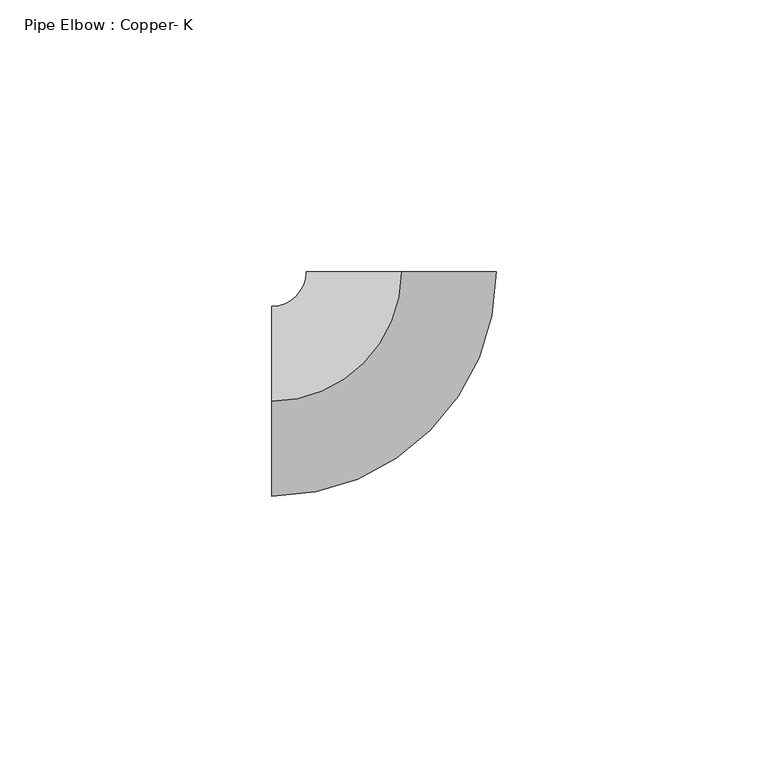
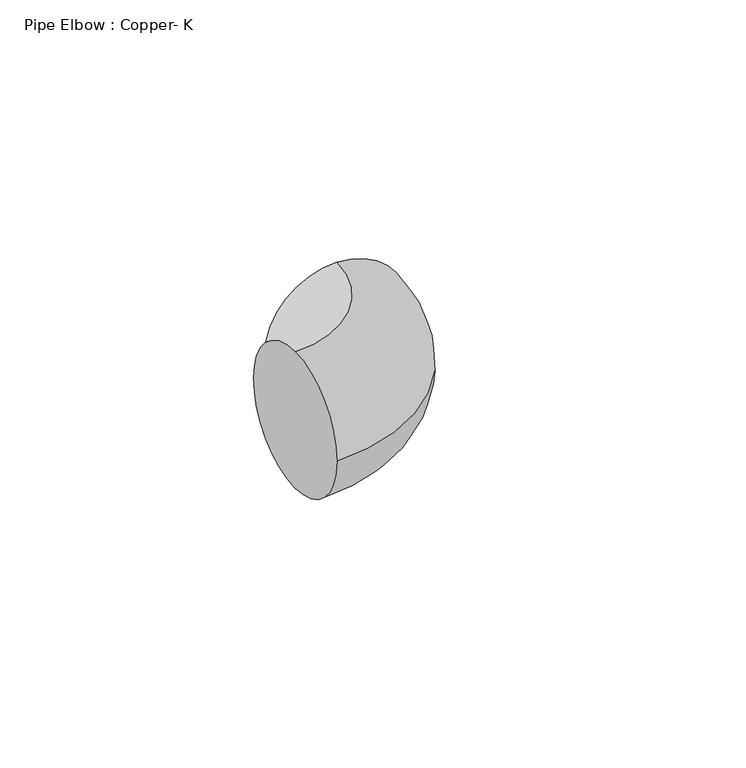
"""IFC4 building model written with IfcOpenShell, lengths in millimetres: pipe fitting geometry, Pipe Elbow : Copper- K."""

from ifc_helpers import new_model, si_unit, point, frame, origin, place, context, project, spatial, circle_curve, ellipse_curve, trimmed, source, transform, mapped, element, save
from ifc_brep_helpers import plane_surface, revolved_surface, advanced_brep


def pipe_elbow_copper_k_c5202fef(model_context):
    return source(origin(), model_context, "Body", "AdvancedBrep", [
        advanced_brep(
        [(-23.8129868, 0.0, 17.4625), (-23.8129868, 17.4625, 0.0), (-23.8129868, 0.0, -17.4625), (-23.8129868, -17.4625, 0.0), (-0.0004868, 23.8129868, 17.4625), (17.4620132, 23.8133437, 0.0), (-0.0004868, 23.8129868, -17.4625), (-17.4629868, 23.8126298, 0.0)],
        [
            (0, 1, circle_curve(frame((-23.8129868, 0.0, 0.0), z_axis=(-1.0, 0.0, 0.0), x_axis=(0.0, 1.0, 0.0)), 17.4625)),
            (1, 2, circle_curve(frame((-23.8129868, 0.0, 0.0), z_axis=(-1.0, 0.0, 0.0), x_axis=(0.0, 1.0, 0.0)), 17.4625)),
            (2, 3, circle_curve(frame((-23.8129868, 0.0, 0.0), z_axis=(-1.0, 0.0, 0.0), x_axis=(0.0, 1.0, 0.0)), 17.4625)),
            (3, 0, circle_curve(frame((-23.8129868, 0.0, 0.0), z_axis=(-1.0, 0.0, 0.0), x_axis=(0.0, 1.0, 0.0)), 17.4625)),
            (4, 5, circle_curve(frame((-0.0004868, 23.8129868, 0.0), z_axis=(-2.044097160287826e-05, 0.9999999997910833, 0.0), x_axis=(-0.9999999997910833, -2.044097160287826e-05, 0.0)), 17.4625)),
            (5, 6, circle_curve(frame((-0.0004868, 23.8129868, 0.0), z_axis=(-2.044097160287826e-05, 0.9999999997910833, 0.0), x_axis=(-0.9999999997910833, -2.044097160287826e-05, 0.0)), 17.4625)),
            (6, 7, circle_curve(frame((-0.0004868, 23.8129868, 0.0), z_axis=(-2.044097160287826e-05, 0.9999999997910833, 0.0), x_axis=(-0.9999999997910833, -2.044097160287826e-05, 0.0)), 17.4625)),
            (7, 4, circle_curve(frame((-0.0004868, 23.8129868, 0.0), z_axis=(-2.044097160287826e-05, 0.9999999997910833, 0.0), x_axis=(-0.9999999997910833, -2.044097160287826e-05, 0.0)), 17.4625)),
            (7, 1, circle_curve(frame((-23.8129868, 23.8125, 0.0), z_axis=(0.0, 0.0, -1.0), x_axis=(0.0, -1.0, 0.0)), 6.35)),
            (0, 4, circle_curve(frame((-23.8129868, 23.8125, 17.4625), z_axis=(0.0, 0.0, 1.0), x_axis=(0.0, -1.0, 0.0)), 23.8125)),
            (6, 2, circle_curve(frame((-23.8129868, 23.8125, -17.4625), z_axis=(0.0, 0.0, -1.0), x_axis=(0.0, -1.0, 0.0)), 23.8125)),
            (5, 3, circle_curve(frame((-23.8129868, 23.8125, 0.0), z_axis=(0.0, 0.0, -1.0), x_axis=(0.0, -1.0, 0.0)), 41.275)),
        ],
        [
            plane_surface(frame((-23.8129868, 0.0, 0.0), z_axis=(-1.0, 0.0, 0.0), x_axis=(0.0, 0.0, 1.0))),
            plane_surface(frame((-0.0004868, 23.8129868, 0.0), z_axis=(-2.0440971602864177e-05, 0.9999999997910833, 0.0), x_axis=(0.0, 0.0, 1.0))),
            revolved_surface(trimmed(ellipse_curve(frame((-23.8129868, 0.0, 0.0), z_axis=(-1.0, 0.0, 0.0), x_axis=(0.0, 1.0, 0.0)), 17.4625, 17.4625), [point((-23.8129868, 0.0, 17.4625))], [point((-23.8129868, 17.4625, 0.0))], True, "CARTESIAN"), (-23.8129868, 23.8125, 0.0), (0.0, 0.0, 1.0)),
            revolved_surface(trimmed(ellipse_curve(frame((-23.8129868, 0.0, 0.0), z_axis=(-1.0, 0.0, 0.0), x_axis=(0.0, 1.0, 0.0)), 17.4625, 17.4625), [point((-23.8129868, 17.4625, 0.0))], [point((-23.8129868, 0.0, -17.4625))], True, "CARTESIAN"), (-23.8129868, 23.8125, 0.0), (0.0, 0.0, 1.0)),
            revolved_surface(trimmed(ellipse_curve(frame((-23.8129868, 0.0, 0.0), z_axis=(-1.0, 0.0, 0.0), x_axis=(0.0, 1.0, 0.0)), 17.4625, 17.4625), [point((-23.8129868, 0.0, -17.4625))], [point((-23.8129868, -17.4625, 0.0))], True, "CARTESIAN"), (-23.8129868, 23.8125, 0.0), (0.0, 0.0, 1.0)),
            revolved_surface(trimmed(ellipse_curve(frame((-23.8129868, 0.0, 0.0), z_axis=(-1.0, 0.0, 0.0), x_axis=(0.0, 1.0, 0.0)), 17.4625, 17.4625), [point((-23.8129868, -17.4625, 0.0))], [point((-23.8129868, 0.0, 17.4625))], True, "CARTESIAN"), (-23.8129868, 23.8125, 0.0), (0.0, 0.0, 1.0)),
        ],
        [
            (0, [[1, 2, 3, 4]]),
            (1, [[5, 6, 7, 8]]),
            (2, [[9, -1, 10, -8]]),
            (3, [[11, -2, -9, -7]]),
            (4, [[12, -3, -11, -6]]),
            (5, [[-10, -4, -12, -5]]),
        ],
    ),
        advanced_brep(
        [(-23.8129868, 0.0, 17.4625), (-23.8129868, 17.4625, 0.0), (-23.8129868, 0.0, -17.4625), (-23.8129868, -17.4625, 0.0), (-0.0004868, 23.8129868, 17.4625), (17.4620132, 23.8133437, 0.0), (-0.0004868, 23.8129868, -17.4625), (-17.4629868, 23.8126298, 0.0)],
        [
            (0, 1, circle_curve(frame((-23.8129868, 0.0, 0.0), z_axis=(-1.0, 0.0, 0.0), x_axis=(0.0, 1.0, 0.0)), 17.4625)),
            (1, 2, circle_curve(frame((-23.8129868, 0.0, 0.0), z_axis=(-1.0, 0.0, 0.0), x_axis=(0.0, 1.0, 0.0)), 17.4625)),
            (2, 3, circle_curve(frame((-23.8129868, 0.0, 0.0), z_axis=(-1.0, 0.0, 0.0), x_axis=(0.0, 1.0, 0.0)), 17.4625)),
            (3, 0, circle_curve(frame((-23.8129868, 0.0, 0.0), z_axis=(-1.0, 0.0, 0.0), x_axis=(0.0, 1.0, 0.0)), 17.4625)),
            (4, 5, circle_curve(frame((-0.0004868, 23.8129868, 0.0), z_axis=(-2.044097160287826e-05, 0.9999999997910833, 0.0), x_axis=(-0.9999999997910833, -2.044097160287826e-05, 0.0)), 17.4625)),
            (5, 6, circle_curve(frame((-0.0004868, 23.8129868, 0.0), z_axis=(-2.044097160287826e-05, 0.9999999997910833, 0.0), x_axis=(-0.9999999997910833, -2.044097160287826e-05, 0.0)), 17.4625)),
            (6, 7, circle_curve(frame((-0.0004868, 23.8129868, 0.0), z_axis=(-2.044097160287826e-05, 0.9999999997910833, 0.0), x_axis=(-0.9999999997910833, -2.044097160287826e-05, 0.0)), 17.4625)),
            (7, 4, circle_curve(frame((-0.0004868, 23.8129868, 0.0), z_axis=(-2.044097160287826e-05, 0.9999999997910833, 0.0), x_axis=(-0.9999999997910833, -2.044097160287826e-05, 0.0)), 17.4625)),
            (7, 1, circle_curve(frame((-23.8129868, 23.8125, 0.0), z_axis=(0.0, 0.0, -1.0), x_axis=(0.0, -1.0, 0.0)), 6.35)),
            (0, 4, circle_curve(frame((-23.8129868, 23.8125, 17.4625), z_axis=(0.0, 0.0, 1.0), x_axis=(0.0, -1.0, 0.0)), 23.8125)),
            (6, 2, circle_curve(frame((-23.8129868, 23.8125, -17.4625), z_axis=(0.0, 0.0, -1.0), x_axis=(0.0, -1.0, 0.0)), 23.8125)),
            (5, 3, circle_curve(frame((-23.8129868, 23.8125, 0.0), z_axis=(0.0, 0.0, -1.0), x_axis=(0.0, -1.0, 0.0)), 41.275)),
        ],
        [
            plane_surface(frame((-23.8129868, 0.0, 0.0), z_axis=(-1.0, 0.0, 0.0), x_axis=(0.0, 0.0, 1.0))),
            plane_surface(frame((-0.0004868, 23.8129868, 0.0), z_axis=(-2.0440971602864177e-05, 0.9999999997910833, 0.0), x_axis=(0.0, 0.0, 1.0))),
            revolved_surface(trimmed(ellipse_curve(frame((-23.8129868, 0.0, 0.0), z_axis=(-1.0, 0.0, 0.0), x_axis=(0.0, 1.0, 0.0)), 17.4625, 17.4625), [point((-23.8129868, 0.0, 17.4625))], [point((-23.8129868, 17.4625, 0.0))], True, "CARTESIAN"), (-23.8129868, 23.8125, 0.0), (0.0, 0.0, 1.0)),
            revolved_surface(trimmed(ellipse_curve(frame((-23.8129868, 0.0, 0.0), z_axis=(-1.0, 0.0, 0.0), x_axis=(0.0, 1.0, 0.0)), 17.4625, 17.4625), [point((-23.8129868, 17.4625, 0.0))], [point((-23.8129868, 0.0, -17.4625))], True, "CARTESIAN"), (-23.8129868, 23.8125, 0.0), (0.0, 0.0, 1.0)),
            revolved_surface(trimmed(ellipse_curve(frame((-23.8129868, 0.0, 0.0), z_axis=(-1.0, 0.0, 0.0), x_axis=(0.0, 1.0, 0.0)), 17.4625, 17.4625), [point((-23.8129868, 0.0, -17.4625))], [point((-23.8129868, -17.4625, 0.0))], True, "CARTESIAN"), (-23.8129868, 23.8125, 0.0), (0.0, 0.0, 1.0)),
            revolved_surface(trimmed(ellipse_curve(frame((-23.8129868, 0.0, 0.0), z_axis=(-1.0, 0.0, 0.0), x_axis=(0.0, 1.0, 0.0)), 17.4625, 17.4625), [point((-23.8129868, -17.4625, 0.0))], [point((-23.8129868, 0.0, 17.4625))], True, "CARTESIAN"), (-23.8129868, 23.8125, 0.0), (0.0, 0.0, 1.0)),
        ],
        [
            (0, [[1, 2, 3, 4]]),
            (1, [[5, 6, 7, 8]]),
            (2, [[9, -1, 10, -8]]),
            (3, [[11, -2, -9, -7]]),
            (4, [[12, -3, -11, -6]]),
            (5, [[-10, -4, -12, -5]]),
        ],
    ),
    ])


if __name__ == "__main__":
    model = new_model("IFC4")
    model_context = context("Model", 3, world=origin())
    ifc_project = project(units=[si_unit("LENGTHUNIT", "METRE", prefix="MILLI")], contexts=[model_context])
    site = spatial("IfcSite", under=ifc_project)
    building = spatial("IfcBuilding", under=site)
    placement = place(None, origin())
    pipe_elbow_copper_k_shape = pipe_elbow_copper_k_c5202fef(model_context)
    element("IfcPipeFitting", 1, ObjectType="Pipe Elbow : Copper- K", at=placement, inside=building, context=model_context, shape_type="MappedRepresentation", body=[
        mapped(pipe_elbow_copper_k_shape, transform((0.0, 0.0, 0.0), x_axis=(1.0, 0.0, 0.0), y_axis=(0.0, 1.0, 0.0), z_axis=(0.0, 0.0, 1.0))),
    ])
    save(model, "model.ifc")
